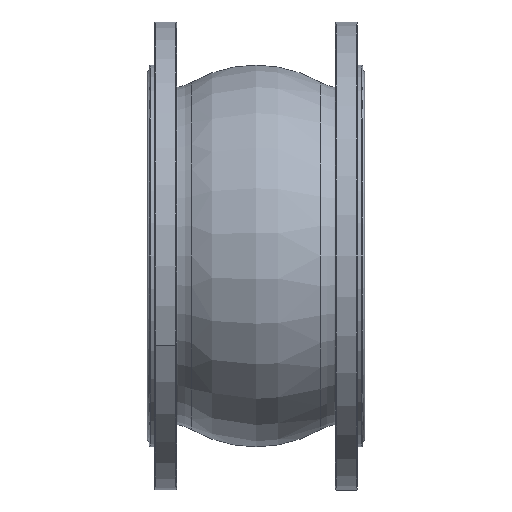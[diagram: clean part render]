
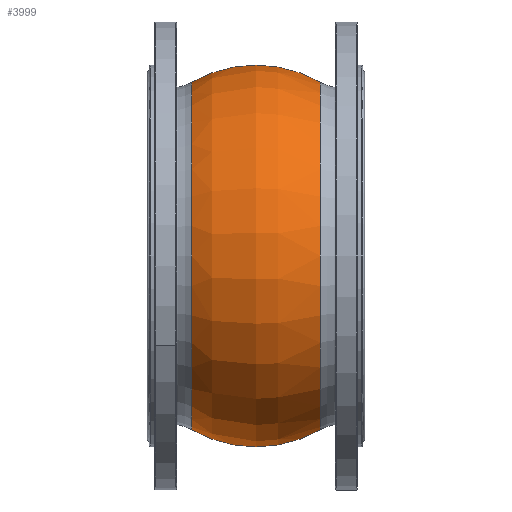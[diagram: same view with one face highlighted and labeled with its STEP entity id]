
A CAD part, front view. The second image highlights one B-rep face of the part: STEP entity #3999.
In plain terms, the highlighted toroidal (fillet/blend) face has major radius 76.5 mm and minor radius 160 mm.
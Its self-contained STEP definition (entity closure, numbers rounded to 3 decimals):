
#85 = DIRECTION ( 'NONE',  ( 0., 0., 1. ) ) ;
#231 = ORIENTED_EDGE ( 'NONE', *, *, #600, .F. ) ;
#329 = DIRECTION ( 'NONE',  ( 0., 1., 0. ) ) ;
#550 = CARTESIAN_POINT ( 'NONE',  ( 79.822, 0., -215.167 ) ) ;
#600 = EDGE_CURVE ( 'NONE', #1733, #3605, #1860, .T. ) ;
#647 = AXIS2_PLACEMENT_3D ( 'NONE', #2391, #1560, #2755 ) ;
#686 = DIRECTION ( 'NONE',  ( -1., 0., 0. ) ) ;
#745 = CIRCLE ( 'NONE', #647, 160. ) ;
#864 = EDGE_CURVE ( 'NONE', #1115, #4500, #2500, .T. ) ;
#914 = AXIS2_PLACEMENT_3D ( 'NONE', #5008, #329, #2739 ) ;
#1077 = DIRECTION ( 'NONE',  ( 0., 0., 1. ) ) ;
#1115 = VERTEX_POINT ( 'NONE', #550 ) ;
#1205 = EDGE_LOOP ( 'NONE', ( #3910, #4083, #3330, #231 ) ) ;
#1236 = DIRECTION ( 'NONE',  ( -1., 0., 0. ) ) ;
#1393 = EDGE_CURVE ( 'NONE', #1115, #1733, #4127, .T. ) ;
#1399 = CARTESIAN_POINT ( 'NONE',  ( -79.822, 0., 215.167 ) ) ;
#1460 = AXIS2_PLACEMENT_3D ( 'NONE', #1826, #4557, #3120 ) ;
#1560 = DIRECTION ( 'NONE',  ( 0., -1., 0. ) ) ;
#1733 = VERTEX_POINT ( 'NONE', #3687 ) ;
#1826 = CARTESIAN_POINT ( 'NONE',  ( 79.822, 0., 0. ) ) ;
#1860 = CIRCLE ( 'NONE', #1879, 215.167 ) ;
#1879 = AXIS2_PLACEMENT_3D ( 'NONE', #4315, #1236, #85 ) ;
#1918 = CARTESIAN_POINT ( 'NONE',  ( 0., 0., 0. ) ) ;
#2323 = CARTESIAN_POINT ( 'NONE',  ( 79.822, 0., 215.167 ) ) ;
#2391 = CARTESIAN_POINT ( 'NONE',  ( 0., 0., 76.5 ) ) ;
#2411 = TOROIDAL_SURFACE ( 'NONE', #4659, 76.5, 160. ) ;
#2500 = CIRCLE ( 'NONE', #1460, 215.167 ) ;
#2739 = DIRECTION ( 'NONE',  ( 0., 0., 1. ) ) ;
#2755 = DIRECTION ( 'NONE',  ( 0., 0., -1. ) ) ;
#3120 = DIRECTION ( 'NONE',  ( 0., 0., 1. ) ) ;
#3330 = ORIENTED_EDGE ( 'NONE', *, *, #4577, .T. ) ;
#3573 = FACE_OUTER_BOUND ( 'NONE', #1205, .T. ) ;
#3605 = VERTEX_POINT ( 'NONE', #1399 ) ;
#3687 = CARTESIAN_POINT ( 'NONE',  ( -79.822, 0., -215.167 ) ) ;
#3910 = ORIENTED_EDGE ( 'NONE', *, *, #1393, .F. ) ;
#3999 = ADVANCED_FACE ( 'NONE', ( #3573 ), #2411, .T. ) ;
#4083 = ORIENTED_EDGE ( 'NONE', *, *, #864, .T. ) ;
#4127 = CIRCLE ( 'NONE', #914, 160. ) ;
#4315 = CARTESIAN_POINT ( 'NONE',  ( -79.822, 0., 0. ) ) ;
#4500 = VERTEX_POINT ( 'NONE', #2323 ) ;
#4557 = DIRECTION ( 'NONE',  ( -1., 0., 0. ) ) ;
#4577 = EDGE_CURVE ( 'NONE', #4500, #3605, #745, .T. ) ;
#4659 = AXIS2_PLACEMENT_3D ( 'NONE', #1918, #686, #1077 ) ;
#5008 = CARTESIAN_POINT ( 'NONE',  ( 0., 0., -76.5 ) ) ;
